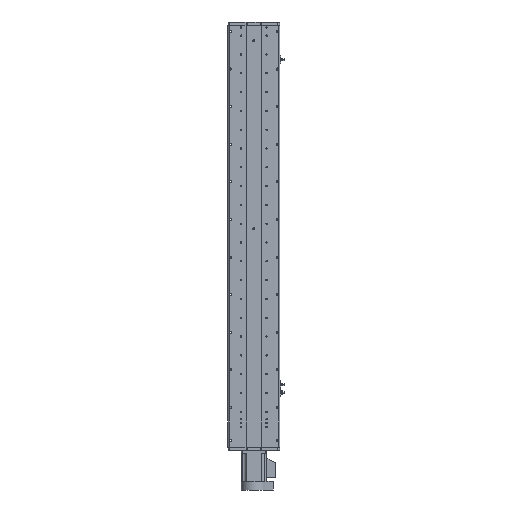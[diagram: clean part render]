
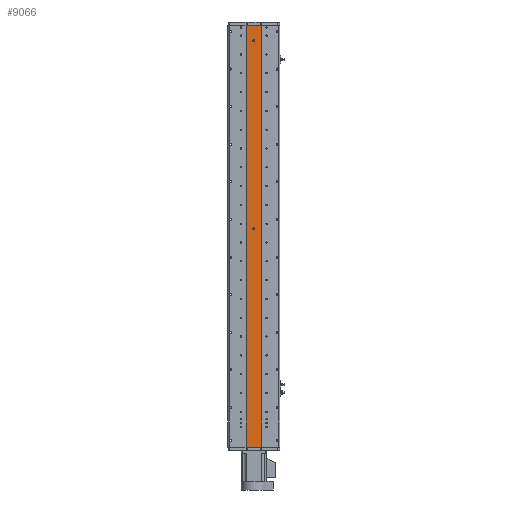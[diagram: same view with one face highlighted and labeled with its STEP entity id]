
A CAD part, front view. The second image highlights one B-rep face of the part: STEP entity #9066.
In plain terms, the highlighted planar face has unit normal (0, -1, 0).
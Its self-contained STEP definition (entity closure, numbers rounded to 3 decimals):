
#19 = VECTOR ( 'NONE', #20086, 1000. ) ;
#814 = EDGE_CURVE ( 'NONE', #2521, #29443, #25918, .T. ) ;
#840 = ORIENTED_EDGE ( 'NONE', *, *, #814, .F. ) ;
#1354 = CARTESIAN_POINT ( 'NONE',  ( 25., 1., 673. ) ) ;
#1364 = AXIS2_PLACEMENT_3D ( 'NONE', #18504, #41199, #21766 ) ;
#1541 = EDGE_CURVE ( 'NONE', #29173, #2521, #36461, .T. ) ;
#2521 = VERTEX_POINT ( 'NONE', #1354 ) ;
#3132 = CARTESIAN_POINT ( 'NONE',  ( 25., 1., -673. ) ) ;
#3725 = DIRECTION ( 'NONE',  ( 1., 0., 0. ) ) ;
#3761 = PLANE ( 'NONE',  #39307 ) ;
#4349 = VERTEX_POINT ( 'NONE', #24673 ) ;
#4995 = CARTESIAN_POINT ( 'NONE',  ( 0., 1., 23. ) ) ;
#5951 = DIRECTION ( 'NONE',  ( 0., -1., 0. ) ) ;
#8239 = LINE ( 'NONE', #26992, #41696 ) ;
#8258 = DIRECTION ( 'NONE',  ( 0., 0., -1. ) ) ;
#8337 = CARTESIAN_POINT ( 'NONE',  ( 0., 1., 620. ) ) ;
#8381 = AXIS2_PLACEMENT_3D ( 'NONE', #37935, #18489, #41188 ) ;
#9031 = CIRCLE ( 'NONE', #8381, 3. ) ;
#9066 = ADVANCED_FACE ( 'NONE', ( #25056, #24031, #34671 ), #3761, .F. ) ;
#10263 = CARTESIAN_POINT ( 'NONE',  ( 25., 1., 673. ) ) ;
#13478 = DIRECTION ( 'NONE',  ( 0., 0., 1. ) ) ;
#13531 = DIRECTION ( 'NONE',  ( 1., 0., 0. ) ) ;
#13736 = EDGE_CURVE ( 'NONE', #31255, #40826, #34249, .T. ) ;
#14745 = ORIENTED_EDGE ( 'NONE', *, *, #20192, .F. ) ;
#14922 = VERTEX_POINT ( 'NONE', #35888 ) ;
#16544 = VECTOR ( 'NONE', #3725, 1000. ) ;
#17229 = EDGE_LOOP ( 'NONE', ( #14745, #26145 ) ) ;
#18489 = DIRECTION ( 'NONE',  ( 0., -1., 0. ) ) ;
#18504 = CARTESIAN_POINT ( 'NONE',  ( 0., 1., 623. ) ) ;
#19192 = VECTOR ( 'NONE', #13531, 1000. ) ;
#20071 = CIRCLE ( 'NONE', #1364, 3. ) ;
#20086 = DIRECTION ( 'NONE',  ( 0., 0., -1. ) ) ;
#20192 = EDGE_CURVE ( 'NONE', #40524, #4349, #20071, .T. ) ;
#21259 = CARTESIAN_POINT ( 'NONE',  ( -25., 1., 673. ) ) ;
#21753 = ORIENTED_EDGE ( 'NONE', *, *, #26121, .T. ) ;
#21766 = DIRECTION ( 'NONE',  ( 0., 0., -1. ) ) ;
#23132 = CARTESIAN_POINT ( 'NONE',  ( 25., 1., -673. ) ) ;
#24031 = FACE_BOUND ( 'NONE', #41535, .T. ) ;
#24651 = EDGE_CURVE ( 'NONE', #40826, #31255, #31202, .T. ) ;
#24673 = CARTESIAN_POINT ( 'NONE',  ( 0., 1., 626. ) ) ;
#25056 = FACE_BOUND ( 'NONE', #17229, .T. ) ;
#25393 = CARTESIAN_POINT ( 'NONE',  ( 0., 1., 23. ) ) ;
#25918 = LINE ( 'NONE', #29774, #19 ) ;
#26121 = EDGE_CURVE ( 'NONE', #29173, #14922, #8239, .T. ) ;
#26145 = ORIENTED_EDGE ( 'NONE', *, *, #40541, .F. ) ;
#26532 = AXIS2_PLACEMENT_3D ( 'NONE', #25393, #5951, #28648 ) ;
#26619 = CARTESIAN_POINT ( 'NONE',  ( 0., 1., 26. ) ) ;
#26992 = CARTESIAN_POINT ( 'NONE',  ( -25., 1., 673. ) ) ;
#27678 = DIRECTION ( 'NONE',  ( 0., -1., 0. ) ) ;
#28648 = DIRECTION ( 'NONE',  ( 0., 0., -1. ) ) ;
#29173 = VERTEX_POINT ( 'NONE', #21259 ) ;
#29443 = VERTEX_POINT ( 'NONE', #3132 ) ;
#29774 = CARTESIAN_POINT ( 'NONE',  ( 25., 1., 673. ) ) ;
#31202 = CIRCLE ( 'NONE', #39520, 3. ) ;
#31255 = VERTEX_POINT ( 'NONE', #34584 ) ;
#32952 = DIRECTION ( 'NONE',  ( 0., 1., 0. ) ) ;
#32996 = CARTESIAN_POINT ( 'NONE',  ( 25., 1., 673. ) ) ;
#34249 = CIRCLE ( 'NONE', #26532, 3. ) ;
#34584 = CARTESIAN_POINT ( 'NONE',  ( 0., 1., 20. ) ) ;
#34667 = EDGE_CURVE ( 'NONE', #14922, #29443, #41429, .T. ) ;
#34671 = FACE_OUTER_BOUND ( 'NONE', #36261, .T. ) ;
#35888 = CARTESIAN_POINT ( 'NONE',  ( -25., 1., -673. ) ) ;
#36261 = EDGE_LOOP ( 'NONE', ( #40238, #840, #38085, #21753 ) ) ;
#36461 = LINE ( 'NONE', #32996, #19192 ) ;
#37513 = ORIENTED_EDGE ( 'NONE', *, *, #24651, .F. ) ;
#37935 = CARTESIAN_POINT ( 'NONE',  ( 0., 1., 623. ) ) ;
#38085 = ORIENTED_EDGE ( 'NONE', *, *, #1541, .F. ) ;
#38643 = ORIENTED_EDGE ( 'NONE', *, *, #13736, .F. ) ;
#39307 = AXIS2_PLACEMENT_3D ( 'NONE', #10263, #32952, #13478 ) ;
#39520 = AXIS2_PLACEMENT_3D ( 'NONE', #4995, #27678, #8258 ) ;
#39986 = DIRECTION ( 'NONE',  ( 0., 0., -1. ) ) ;
#40238 = ORIENTED_EDGE ( 'NONE', *, *, #34667, .T. ) ;
#40524 = VERTEX_POINT ( 'NONE', #8337 ) ;
#40541 = EDGE_CURVE ( 'NONE', #4349, #40524, #9031, .T. ) ;
#40826 = VERTEX_POINT ( 'NONE', #26619 ) ;
#41188 = DIRECTION ( 'NONE',  ( 0., 0., -1. ) ) ;
#41199 = DIRECTION ( 'NONE',  ( 0., -1., 0. ) ) ;
#41429 = LINE ( 'NONE', #23132, #16544 ) ;
#41535 = EDGE_LOOP ( 'NONE', ( #38643, #37513 ) ) ;
#41696 = VECTOR ( 'NONE', #39986, 1000. ) ;
